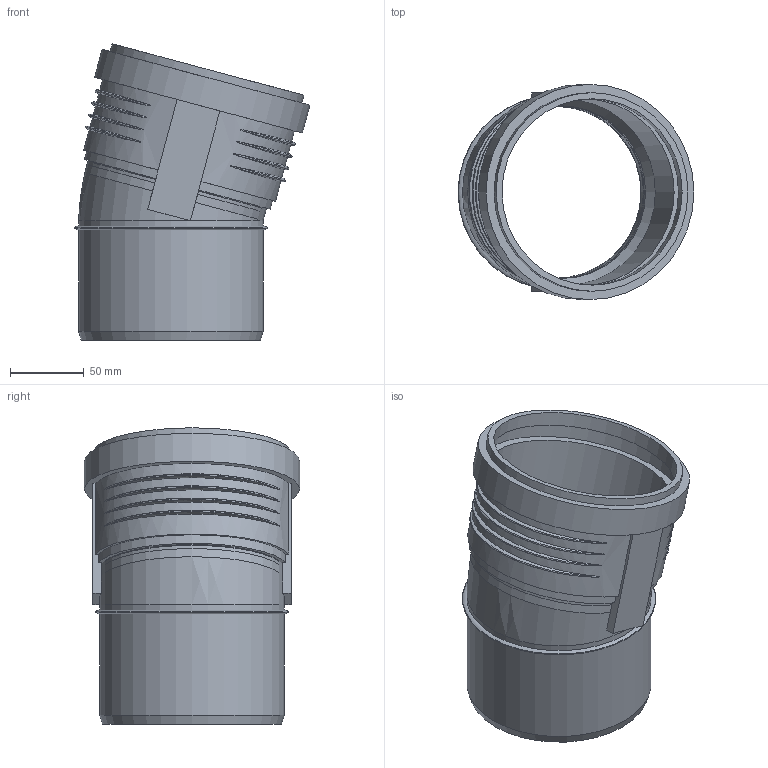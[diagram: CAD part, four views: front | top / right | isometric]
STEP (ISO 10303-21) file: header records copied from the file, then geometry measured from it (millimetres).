
FILE_DESCRIPTION(/* description */ (''),/* implementation_level */ '2;1');
FILE_NAME(/* name */ 'Z:\Geberit\Export\NewStep\390620.stp',/* time_stamp */ '2014-04-02T08:15:42+02:00',/* author */ ('ML'),/* organization */ (''),/* preprocessor_version */ 'ST-DEVELOPER v15.2',/* originating_system */ 'Autodesk Inventor 2014',/* authorisation */ '');
FILE_SCHEMA (('AUTOMOTIVE_DESIGN { 1 0 10303 214 3 1 1 }'));
Length unit declared in the file: millimetre
Products named in the file (3): 861591; 861625; 390620
Bounding box: 159.9 x 145.9 x 200.9 mm (x, y, z)
Volume: 350546.6 mm3; surface area: 175994.5 mm2
Topology: 2 solids, 2 shells, 68 faces, 162 edges, 109 vertices
Faces by surface type: torus 28, plane 19, cylinder 18, cone 2, bspline 1
Full cylindrical faces by diameter (mm): 116.8 x2, 117 x1, 125.2 x4, 126.4 x2, 134.6 x1, 137.7 x1, 145.9 x1
Entity records: 2726 total; most frequent: CARTESIAN_POINT 1150, DIRECTION 290, ORIENTED_EDGE 278, EDGE_CURVE 139, AXIS2_PLACEMENT_3D 127, VERTEX_POINT 106, EDGE_LOOP 103, STYLED_ITEM 70
